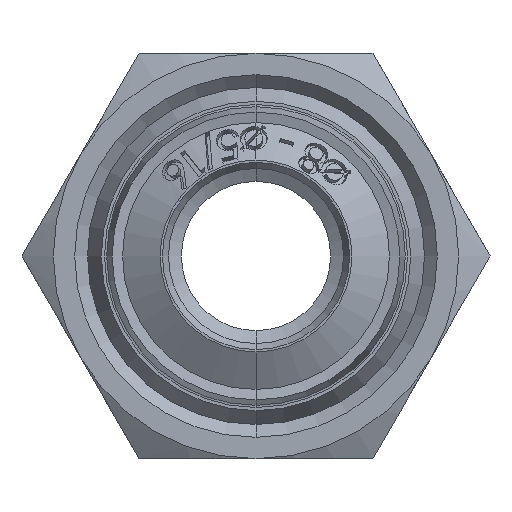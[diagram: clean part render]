
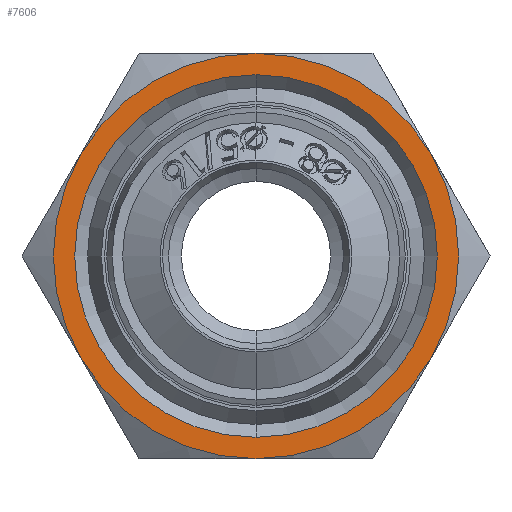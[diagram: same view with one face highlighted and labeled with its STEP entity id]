
A CAD part, front view. The second image highlights one B-rep face of the part: STEP entity #7606.
In plain terms, the highlighted planar face has unit normal (0, -1, 0).
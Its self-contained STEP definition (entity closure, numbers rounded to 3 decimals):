
#143 = FACE_BOUND ( 'NONE', #7811, .T. ) ;
#171 = CIRCLE ( 'NONE', #1153, 9.5 ) ;
#318 = VERTEX_POINT ( 'NONE', #6554 ) ;
#403 = DIRECTION ( 'NONE',  ( 0., 0., -1. ) ) ;
#612 = ORIENTED_EDGE ( 'NONE', *, *, #7035, .T. ) ;
#829 = CARTESIAN_POINT ( 'NONE',  ( 0., 3.5, 0. ) ) ;
#904 = EDGE_CURVE ( 'NONE', #1331, #318, #3598, .T. ) ;
#951 = CARTESIAN_POINT ( 'NONE',  ( 0., 3.5, 0. ) ) ;
#1153 = AXIS2_PLACEMENT_3D ( 'NONE', #951, #9074, #2135 ) ;
#1185 = CIRCLE ( 'NONE', #14980, 9.5 ) ;
#1293 = CARTESIAN_POINT ( 'NONE',  ( 0., 3.5, 0. ) ) ;
#1331 = VERTEX_POINT ( 'NONE', #11441 ) ;
#1367 = CIRCLE ( 'NONE', #1743, 9.5 ) ;
#1568 = EDGE_CURVE ( 'NONE', #10845, #9711, #171, .T. ) ;
#1651 = EDGE_LOOP ( 'NONE', ( #2833, #13651, #13725, #14595, #5476, #9768 ) ) ;
#1742 = DIRECTION ( 'NONE',  ( 0., -1., 0. ) ) ;
#1743 = AXIS2_PLACEMENT_3D ( 'NONE', #14253, #7357, #403 ) ;
#1905 = CARTESIAN_POINT ( 'NONE',  ( 0., 3.5, -8.5 ) ) ;
#2010 = DIRECTION ( 'NONE',  ( 0., 0., -1. ) ) ;
#2135 = DIRECTION ( 'NONE',  ( 0., 0., -1. ) ) ;
#2465 = DIRECTION ( 'NONE',  ( 0., 0., -1. ) ) ;
#2833 = ORIENTED_EDGE ( 'NONE', *, *, #4513, .T. ) ;
#3101 = DIRECTION ( 'NONE',  ( 0., 1., 0. ) ) ;
#3548 = CIRCLE ( 'NONE', #10116, 8.5 ) ;
#3579 = CARTESIAN_POINT ( 'NONE',  ( 0., 3.5, 0. ) ) ;
#3598 = CIRCLE ( 'NONE', #6437, 9.5 ) ;
#4036 = DIRECTION ( 'NONE',  ( 0., -1., 0. ) ) ;
#4478 = AXIS2_PLACEMENT_3D ( 'NONE', #10961, #4036, #12140 ) ;
#4513 = EDGE_CURVE ( 'NONE', #9711, #12454, #10724, .T. ) ;
#4755 = DIRECTION ( 'NONE',  ( 0., 0., -1. ) ) ;
#5476 = ORIENTED_EDGE ( 'NONE', *, *, #14928, .T. ) ;
#6046 = VERTEX_POINT ( 'NONE', #10756 ) ;
#6324 = FACE_OUTER_BOUND ( 'NONE', #1651, .T. ) ;
#6437 = AXIS2_PLACEMENT_3D ( 'NONE', #3579, #11673, #4755 ) ;
#6457 = DIRECTION ( 'NONE',  ( 0., -1., 0. ) ) ;
#6554 = CARTESIAN_POINT ( 'NONE',  ( 0., 3.5, 9.5 ) ) ;
#6901 = VERTEX_POINT ( 'NONE', #12167 ) ;
#7035 = EDGE_CURVE ( 'NONE', #6901, #9239, #13876, .T. ) ;
#7237 = AXIS2_PLACEMENT_3D ( 'NONE', #1293, #9397, #2465 ) ;
#7357 = DIRECTION ( 'NONE',  ( 0., -1., 0. ) ) ;
#7483 = PLANE ( 'NONE',  #11309 ) ;
#7606 = ADVANCED_FACE ( 'NONE', ( #143, #6324 ), #7483, .T. ) ;
#7811 = EDGE_LOOP ( 'NONE', ( #14509, #612 ) ) ;
#8053 = AXIS2_PLACEMENT_3D ( 'NONE', #10018, #3101, #11189 ) ;
#8684 = CARTESIAN_POINT ( 'NONE',  ( 0., 3.5, 0. ) ) ;
#8943 = DIRECTION ( 'NONE',  ( 0., 1., 0. ) ) ;
#9074 = DIRECTION ( 'NONE',  ( 0., -1., 0. ) ) ;
#9239 = VERTEX_POINT ( 'NONE', #1905 ) ;
#9397 = DIRECTION ( 'NONE',  ( 0., -1., 0. ) ) ;
#9711 = VERTEX_POINT ( 'NONE', #14419 ) ;
#9768 = ORIENTED_EDGE ( 'NONE', *, *, #1568, .T. ) ;
#9814 = DIRECTION ( 'NONE',  ( 0., 0., -1. ) ) ;
#10018 = CARTESIAN_POINT ( 'NONE',  ( 0., 3.5, 0. ) ) ;
#10116 = AXIS2_PLACEMENT_3D ( 'NONE', #829, #8943, #2010 ) ;
#10264 = CARTESIAN_POINT ( 'NONE',  ( 8.227, 3.5, -4.75 ) ) ;
#10724 = CIRCLE ( 'NONE', #4478, 9.5 ) ;
#10756 = CARTESIAN_POINT ( 'NONE',  ( -8.227, 3.5, 4.75 ) ) ;
#10783 = EDGE_CURVE ( 'NONE', #12454, #1331, #13620, .T. ) ;
#10845 = VERTEX_POINT ( 'NONE', #14087 ) ;
#10961 = CARTESIAN_POINT ( 'NONE',  ( 0., 3.5, 0. ) ) ;
#11189 = DIRECTION ( 'NONE',  ( 0., 0., -1. ) ) ;
#11309 = AXIS2_PLACEMENT_3D ( 'NONE', #8684, #1742, #9814 ) ;
#11441 = CARTESIAN_POINT ( 'NONE',  ( 8.227, 3.5, 4.75 ) ) ;
#11673 = DIRECTION ( 'NONE',  ( 0., -1., 0. ) ) ;
#12140 = DIRECTION ( 'NONE',  ( 0., 0., -1. ) ) ;
#12167 = CARTESIAN_POINT ( 'NONE',  ( 0., 3.5, 8.5 ) ) ;
#12454 = VERTEX_POINT ( 'NONE', #10264 ) ;
#13023 = EDGE_CURVE ( 'NONE', #9239, #6901, #3548, .T. ) ;
#13322 = CARTESIAN_POINT ( 'NONE',  ( 0., 3.5, 0. ) ) ;
#13620 = CIRCLE ( 'NONE', #7237, 9.5 ) ;
#13651 = ORIENTED_EDGE ( 'NONE', *, *, #10783, .T. ) ;
#13725 = ORIENTED_EDGE ( 'NONE', *, *, #904, .T. ) ;
#13876 = CIRCLE ( 'NONE', #8053, 8.5 ) ;
#14087 = CARTESIAN_POINT ( 'NONE',  ( -8.227, 3.5, -4.75 ) ) ;
#14253 = CARTESIAN_POINT ( 'NONE',  ( 0., 3.5, 0. ) ) ;
#14419 = CARTESIAN_POINT ( 'NONE',  ( 0., 3.5, -9.5 ) ) ;
#14505 = DIRECTION ( 'NONE',  ( 0., 0., -1. ) ) ;
#14509 = ORIENTED_EDGE ( 'NONE', *, *, #13023, .T. ) ;
#14572 = EDGE_CURVE ( 'NONE', #318, #6046, #1185, .T. ) ;
#14595 = ORIENTED_EDGE ( 'NONE', *, *, #14572, .T. ) ;
#14928 = EDGE_CURVE ( 'NONE', #6046, #10845, #1367, .T. ) ;
#14980 = AXIS2_PLACEMENT_3D ( 'NONE', #13322, #6457, #14505 ) ;
